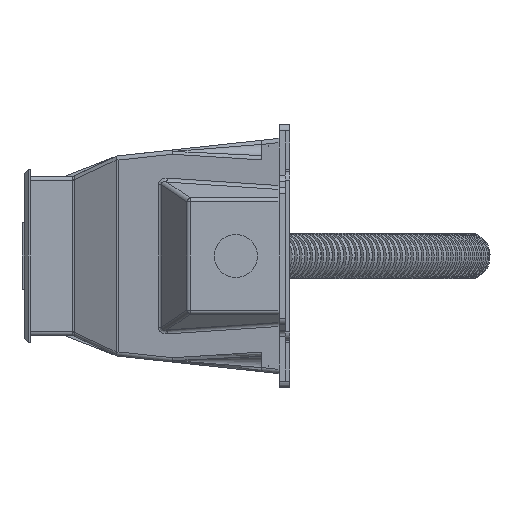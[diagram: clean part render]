
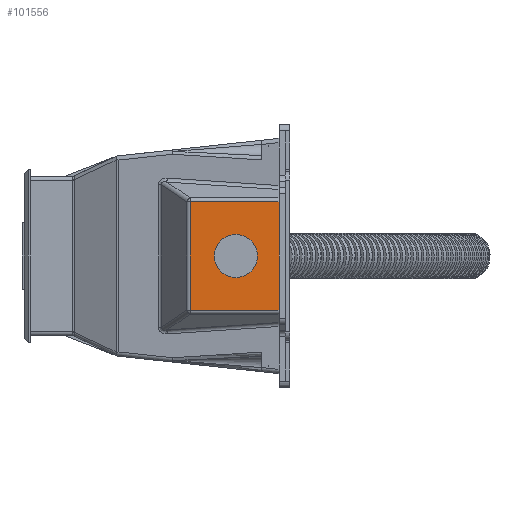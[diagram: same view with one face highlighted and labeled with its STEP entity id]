
A CAD part, left-side view. The second image highlights one B-rep face of the part: STEP entity #101556.
In plain terms, the highlighted planar face has unit normal (-1, 0, 0).
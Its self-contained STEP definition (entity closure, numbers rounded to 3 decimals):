
#83504=DIRECTION('',(0.,-1.,0.));
#83505=VECTOR('',#83504,41.003);
#83506=CARTESIAN_POINT('',(-130.,-53.997,-25.098));
#83507=LINE('',#83506,#83505);
#83508=DIRECTION('',(0.,0.,-1.));
#83509=VECTOR('',#83508,50.196);
#83510=CARTESIAN_POINT('',(-130.,-53.997,25.098));
#83511=LINE('',#83510,#83509);
#83512=DIRECTION('',(0.,1.,0.));
#83513=VECTOR('',#83512,41.003);
#83514=CARTESIAN_POINT('',(-130.,-95.,25.098));
#83515=LINE('',#83514,#83513);
#83516=DIRECTION('',(0.,0.,-1.));
#83517=VECTOR('',#83516,50.196);
#83518=CARTESIAN_POINT('',(-130.,-95.,25.098));
#83519=LINE('',#83518,#83517);
#83520=CARTESIAN_POINT('',(-130.,-75.,0.));
#83521=DIRECTION('',(-1.,0.,0.));
#83522=DIRECTION('',(0.,0.,1.));
#83523=AXIS2_PLACEMENT_3D('',#83520,#83521,#83522);
#83525=CARTESIAN_POINT('',(-130.,-75.,0.));
#83526=DIRECTION('',(-1.,0.,0.));
#83527=DIRECTION('',(0.,0.,-1.));
#83528=AXIS2_PLACEMENT_3D('',#83525,#83526,#83527);
#84098=CARTESIAN_POINT('',(-130.,-53.997,-25.098));
#84099=CARTESIAN_POINT('',(-130.,-95.,-25.098));
#84100=VERTEX_POINT('',#84098);
#84101=VERTEX_POINT('',#84099);
#84106=CARTESIAN_POINT('',(-130.,-53.997,25.098));
#84107=VERTEX_POINT('',#84106);
#84118=CARTESIAN_POINT('',(-130.,-95.,25.098));
#84119=VERTEX_POINT('',#84118);
#86175=CARTESIAN_POINT('',(-130.,-75.,10.));
#86176=CARTESIAN_POINT('',(-130.,-75.,-10.));
#86177=VERTEX_POINT('',#86175);
#86178=VERTEX_POINT('',#86176);
#101537=CARTESIAN_POINT('',(-130.,0.,0.));
#101538=DIRECTION('',(1.,0.,0.));
#101539=DIRECTION('',(0.,0.,-1.));
#101540=AXIS2_PLACEMENT_3D('',#101537,#101538,#101539);
#101541=PLANE('',#101540);
#101543=ORIENTED_EDGE('',*,*,#101542,.F.);
#101545=ORIENTED_EDGE('',*,*,#101544,.F.);
#101546=ORIENTED_EDGE('',*,*,#101528,.F.);
#101547=ORIENTED_EDGE('',*,*,#89900,.T.);
#101548=EDGE_LOOP('',(#101543,#101545,#101546,#101547));
#101549=FACE_OUTER_BOUND('',#101548,.F.);
#101551=ORIENTED_EDGE('',*,*,#101550,.T.);
#101553=ORIENTED_EDGE('',*,*,#101552,.T.);
#101554=EDGE_LOOP('',(#101551,#101553));
#101555=FACE_BOUND('',#101554,.F.);
#101556=ADVANCED_FACE('',(#101549,#101555),#101541,.F.);
#83524=CIRCLE('',#83523,10.);
#83529=CIRCLE('',#83528,10.);
#89900=EDGE_CURVE('',#84119,#84101,#83519,.T.);
#101528=EDGE_CURVE('',#84119,#84107,#83515,.T.);
#101542=EDGE_CURVE('',#84100,#84101,#83507,.T.);
#101544=EDGE_CURVE('',#84107,#84100,#83511,.T.);
#101550=EDGE_CURVE('',#86177,#86178,#83524,.T.);
#101552=EDGE_CURVE('',#86178,#86177,#83529,.T.);
